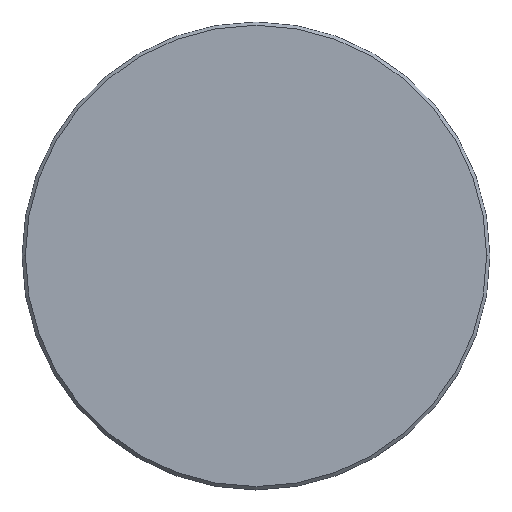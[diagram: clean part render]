
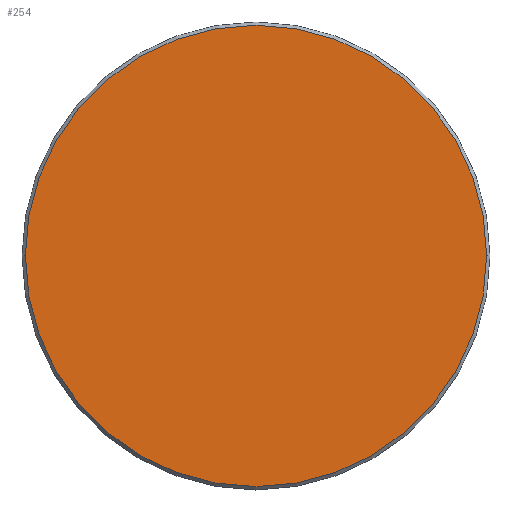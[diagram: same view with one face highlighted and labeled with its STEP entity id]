
A CAD part, top view. The second image highlights one B-rep face of the part: STEP entity #254.
In plain terms, the highlighted planar face has unit normal (0, 0, 1).
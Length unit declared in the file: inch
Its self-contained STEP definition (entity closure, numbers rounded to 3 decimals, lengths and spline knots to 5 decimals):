
#62=CARTESIAN_POINT('',(0.,0.,0.45));
#63=DIRECTION('',(0.,0.,1.));
#64=DIRECTION('',(-1.,0.,0.));
#65=AXIS2_PLACEMENT_3D('',#62,#63,#64);
#67=CARTESIAN_POINT('',(0.,0.,0.45));
#68=DIRECTION('',(0.,0.,1.));
#69=DIRECTION('',(1.,0.,0.));
#70=AXIS2_PLACEMENT_3D('',#67,#68,#69);
#116=CARTESIAN_POINT('',(-2.095,0.,0.45));
#117=CARTESIAN_POINT('',(2.095,0.,0.45));
#118=VERTEX_POINT('',#116);
#119=VERTEX_POINT('',#117);
#244=CARTESIAN_POINT('',(0.,0.,0.45));
#245=DIRECTION('',(0.,0.,-1.));
#246=DIRECTION('',(-1.,0.,0.));
#247=AXIS2_PLACEMENT_3D('',#244,#245,#246);
#248=PLANE('',#247);
#250=ORIENTED_EDGE('',*,*,#249,.F.);
#251=ORIENTED_EDGE('',*,*,#234,.F.);
#252=EDGE_LOOP('',(#250,#251));
#253=FACE_OUTER_BOUND('',#252,.F.);
#254=ADVANCED_FACE('',(#253),#248,.F.);
#66=CIRCLE('',#65,2.095);
#71=CIRCLE('',#70,2.095);
#234=EDGE_CURVE('',#119,#118,#71,.T.);
#249=EDGE_CURVE('',#118,#119,#66,.T.);
